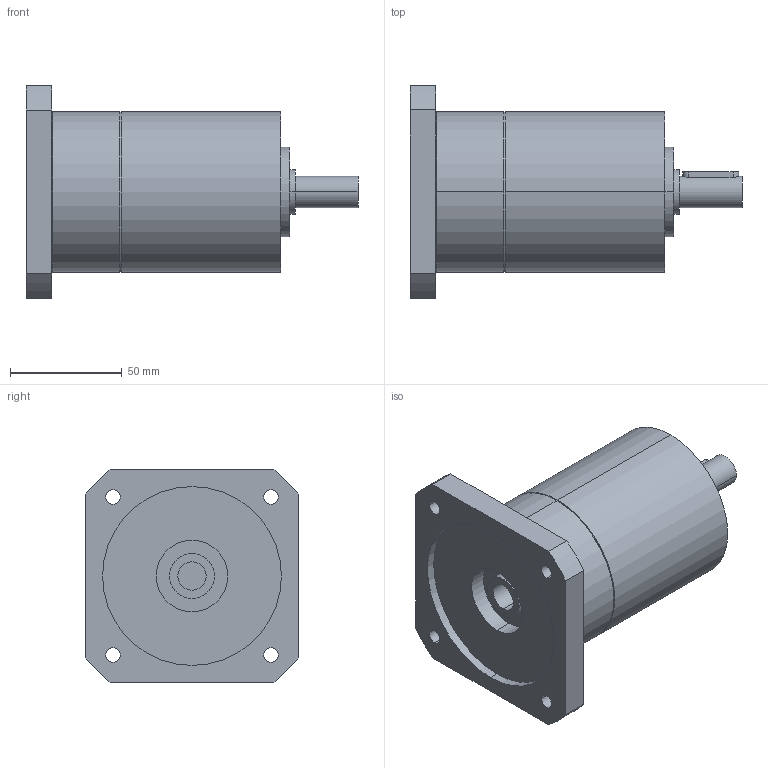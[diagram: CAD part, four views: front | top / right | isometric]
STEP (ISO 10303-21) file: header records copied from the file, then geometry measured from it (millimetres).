
FILE_DESCRIPTION(('CoCreate Modeling STEP Export'),'2;1');
FILE_NAME('GPT75_ig-9-12-16-20-25-28-35-40-50-70-100_14_B14T_12.7_P07.stp','2014-08-27T13:09:02',(''),(''),'CoCreate Modeling STEP processor for AP214 (Solid Model)','CoCreate Modeling 16.00C 25-Feb-2009 (C) Parametric Technology GmbH','');
FILE_SCHEMA(('AUTOMOTIVE_DESIGN { 1 0 10303 214 1 1 1 1 }'));
Length unit declared in the file: millimetre
Products named in the file (2): GPT75_ig-9-12-16-20-25-28-35-40-50-70-100_14_B14T_12.7_P07
Assembly tree (1 placements, depth 2):
  GPT75_ig-9-12-16-20-25-28-35-40-50-70-100_14_B14T_12.7_P07
    GPT75_ig-9-12-16-20-25-28-35-40-50-70-100_14_B14T_12.7_P07
Bounding box: 148.5 x 95 x 95 mm (x, y, z)
Volume: 497327.1 mm3; surface area: 51969.6 mm2
Topology: 1 solids, 1 shells, 69 faces, 162 edges, 109 vertices
Faces by surface type: cylinder 42, plane 23, cone 4
Entity records: 2141 total; most frequent: CARTESIAN_POINT 660, ORIENTED_EDGE 324, DIRECTION 262, EDGE_CURVE 162, VERTEX_POINT 109, AXIS2_PLACEMENT_3D 99, EDGE_LOOP 91, FACE_OUTER_BOUND 69
